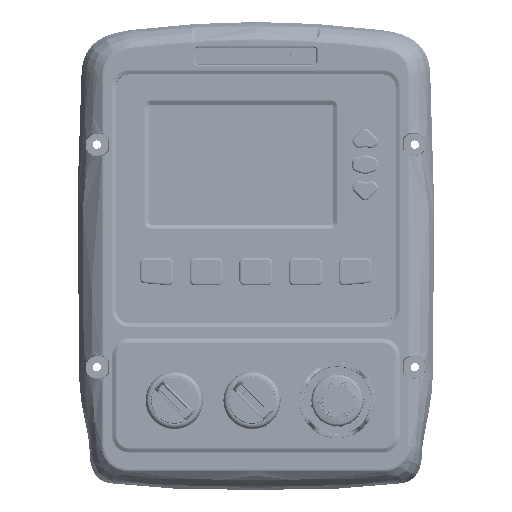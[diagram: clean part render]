
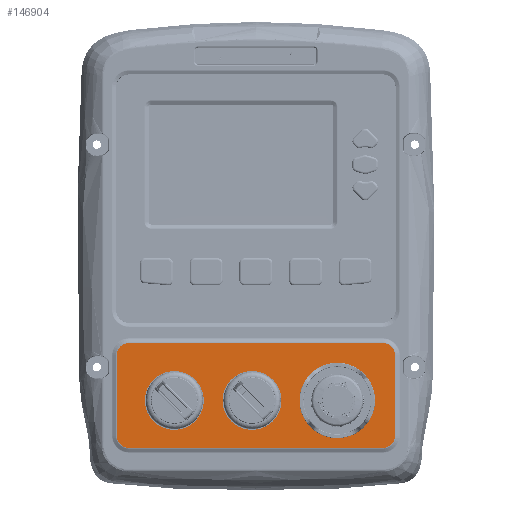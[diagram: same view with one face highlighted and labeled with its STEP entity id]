
A CAD part, top view. The second image highlights one B-rep face of the part: STEP entity #146904.
In plain terms, the highlighted planar face has unit normal (0, 0, 1).
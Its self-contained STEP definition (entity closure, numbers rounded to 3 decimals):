
#26910=DIRECTION('',(-1.,0.,0.));
#26911=VECTOR('',#26910,127.615);
#26912=CARTESIAN_POINT('',(63.807,-99.113,
11.473));
#26913=LINE('',#26912,#26911);
#26933=DIRECTION('',(0.,1.,0.));
#26934=VECTOR('',#26933,40.28);
#26935=CARTESIAN_POINT('',(-70.071,-92.849,
11.473));
#26936=LINE('',#26935,#26934);
#26956=DIRECTION('',(1.,0.,0.));
#26957=VECTOR('',#26956,127.615);
#26958=CARTESIAN_POINT('',(-63.807,-46.305,
11.473));
#26959=LINE('',#26958,#26957);
#26979=DIRECTION('',(0.,-1.,0.));
#26980=VECTOR('',#26979,40.28);
#26981=CARTESIAN_POINT('',(70.071,-52.569,
11.473));
#26982=LINE('',#26981,#26980);
#26987=CARTESIAN_POINT('',(40.949,-75.211,
11.473));
#26988=DIRECTION('',(0.,0.,-1.));
#26989=DIRECTION('',(-1.,0.,0.));
#26990=AXIS2_PLACEMENT_3D('',#26987,#26988,#26989);
#26992=CARTESIAN_POINT('',(40.949,-75.211,
11.473));
#26993=DIRECTION('',(0.,0.,-1.));
#26994=DIRECTION('',(1.,0.,0.));
#26995=AXIS2_PLACEMENT_3D('',#26992,#26993,#26994);
#26997=CARTESIAN_POINT('',(-1.949,-75.211,
11.473));
#26998=DIRECTION('',(0.,0.,-1.));
#26999=DIRECTION('',(0.707,-0.707,0.));
#27000=AXIS2_PLACEMENT_3D('',#26997,#26998,#26999);
#27002=CARTESIAN_POINT('',(-1.949,-75.211,
11.473));
#27003=DIRECTION('',(0.,0.,-1.));
#27004=DIRECTION('',(-0.707,0.707,0.));
#27005=AXIS2_PLACEMENT_3D('',#27002,#27003,#27004);
#27007=CARTESIAN_POINT('',(-63.807,-92.849,
11.473));
#27008=DIRECTION('',(0.,0.,1.));
#27009=DIRECTION('',(-1.,0.,0.));
#27010=AXIS2_PLACEMENT_3D('',#27007,#27008,#27009);
#27012=CARTESIAN_POINT('',(-63.807,-52.569,
11.473));
#27013=DIRECTION('',(0.,0.,1.));
#27014=DIRECTION('',(0.,1.,0.));
#27015=AXIS2_PLACEMENT_3D('',#27012,#27013,#27014);
#27017=CARTESIAN_POINT('',(63.807,-52.569,
11.473));
#27018=DIRECTION('',(0.,0.,1.));
#27019=DIRECTION('',(1.,0.,0.));
#27020=AXIS2_PLACEMENT_3D('',#27017,#27018,#27019);
#27022=CARTESIAN_POINT('',(63.807,-92.849,
11.473));
#27023=DIRECTION('',(0.,0.,1.));
#27024=DIRECTION('',(0.,-1.,0.));
#27025=AXIS2_PLACEMENT_3D('',#27022,#27023,#27024);
#27027=CARTESIAN_POINT('',(-41.051,-75.211,
11.473));
#27028=DIRECTION('',(0.,0.,-1.));
#27029=DIRECTION('',(0.707,-0.707,0.));
#27030=AXIS2_PLACEMENT_3D('',#27027,#27028,#27029);
#27032=CARTESIAN_POINT('',(-41.051,-75.211,
11.473));
#27033=DIRECTION('',(0.,0.,-1.));
#27034=DIRECTION('',(-0.707,0.707,0.));
#27035=AXIS2_PLACEMENT_3D('',#27032,#27033,#27034);
#80675=CARTESIAN_POINT('',(21.949,-75.211,
11.473));
#80676=CARTESIAN_POINT('',(59.949,-75.211,
11.473));
#80677=VERTEX_POINT('',#80675);
#80678=VERTEX_POINT('',#80676);
#80679=CARTESIAN_POINT('',(7.597,-84.757,
11.473));
#80680=CARTESIAN_POINT('',(-11.495,-65.665,
11.473));
#80681=VERTEX_POINT('',#80679);
#80682=VERTEX_POINT('',#80680);
#80683=CARTESIAN_POINT('',(63.807,-99.113,
11.473));
#80684=CARTESIAN_POINT('',(-63.807,-99.113,
11.473));
#80685=VERTEX_POINT('',#80683);
#80686=VERTEX_POINT('',#80684);
#80687=CARTESIAN_POINT('',(70.071,-92.849,
11.473));
#80688=VERTEX_POINT('',#80687);
#80689=CARTESIAN_POINT('',(70.071,-52.569,
11.473));
#80690=VERTEX_POINT('',#80689);
#80691=CARTESIAN_POINT('',(63.807,-46.305,
11.473));
#80692=VERTEX_POINT('',#80691);
#80693=CARTESIAN_POINT('',(-63.807,-46.305,
11.473));
#80694=VERTEX_POINT('',#80693);
#80695=CARTESIAN_POINT('',(-70.071,-52.569,
11.473));
#80696=VERTEX_POINT('',#80695);
#80697=CARTESIAN_POINT('',(-70.071,-92.849,
11.473));
#80698=VERTEX_POINT('',#80697);
#80699=CARTESIAN_POINT('',(-31.505,-84.757,
11.473));
#80700=CARTESIAN_POINT('',(-50.597,-65.665,
11.473));
#80701=VERTEX_POINT('',#80699);
#80702=VERTEX_POINT('',#80700);
#146871=CARTESIAN_POINT('',(0.,-5.,11.473));
#146872=DIRECTION('',(0.,0.,1.));
#146873=DIRECTION('',(1.,0.,0.));
#146874=AXIS2_PLACEMENT_3D('',#146871,#146872,#146873);
#146875=PLANE('',#146874);
#146876=ORIENTED_EDGE('',*,*,#146732,.T.);
#146877=ORIENTED_EDGE('',*,*,#146753,.F.);
#146878=ORIENTED_EDGE('',*,*,#146774,.T.);
#146879=ORIENTED_EDGE('',*,*,#146795,.F.);
#146880=ORIENTED_EDGE('',*,*,#146816,.T.);
#146881=ORIENTED_EDGE('',*,*,#146837,.F.);
#146882=ORIENTED_EDGE('',*,*,#146857,.T.);
#146883=ORIENTED_EDGE('',*,*,#146710,.F.);
#146884=EDGE_LOOP('',(#146876,#146877,#146878,#146879,#146880,#146881,#146882,
#146883));
#146885=FACE_OUTER_BOUND('',#146884,.F.);
#146887=ORIENTED_EDGE('',*,*,#146886,.F.);
#146889=ORIENTED_EDGE('',*,*,#146888,.F.);
#146890=EDGE_LOOP('',(#146887,#146889));
#146891=FACE_BOUND('',#146890,.F.);
#146893=ORIENTED_EDGE('',*,*,#146892,.F.);
#146895=ORIENTED_EDGE('',*,*,#146894,.F.);
#146896=EDGE_LOOP('',(#146893,#146895));
#146897=FACE_BOUND('',#146896,.F.);
#146899=ORIENTED_EDGE('',*,*,#146898,.F.);
#146901=ORIENTED_EDGE('',*,*,#146900,.F.);
#146902=EDGE_LOOP('',(#146899,#146901));
#146903=FACE_BOUND('',#146902,.F.);
#26991=CIRCLE('',#26990,19.);
#26996=CIRCLE('',#26995,19.);
#27001=CIRCLE('',#27000,13.5);
#27006=CIRCLE('',#27005,13.5);
#27011=CIRCLE('',#27010,6.264);
#27016=CIRCLE('',#27015,6.264);
#27021=CIRCLE('',#27020,6.264);
#27026=CIRCLE('',#27025,6.264);
#27031=CIRCLE('',#27030,13.5);
#27036=CIRCLE('',#27035,13.5);
#146710=EDGE_CURVE('',#80685,#80688,#27026,.T.);
#146732=EDGE_CURVE('',#80685,#80686,#26913,.T.);
#146753=EDGE_CURVE('',#80698,#80686,#27011,.T.);
#146774=EDGE_CURVE('',#80698,#80696,#26936,.T.);
#146795=EDGE_CURVE('',#80694,#80696,#27016,.T.);
#146816=EDGE_CURVE('',#80694,#80692,#26959,.T.);
#146837=EDGE_CURVE('',#80690,#80692,#27021,.T.);
#146857=EDGE_CURVE('',#80690,#80688,#26982,.T.);
#146886=EDGE_CURVE('',#80681,#80682,#27001,.T.);
#146888=EDGE_CURVE('',#80682,#80681,#27006,.T.);
#146892=EDGE_CURVE('',#80677,#80678,#26991,.T.);
#146894=EDGE_CURVE('',#80678,#80677,#26996,.T.);
#146898=EDGE_CURVE('',#80701,#80702,#27031,.T.);
#146900=EDGE_CURVE('',#80702,#80701,#27036,.T.);
#146904=ADVANCED_FACE('',(#146885,#146891,#146897,#146903),#146875,.T.);
